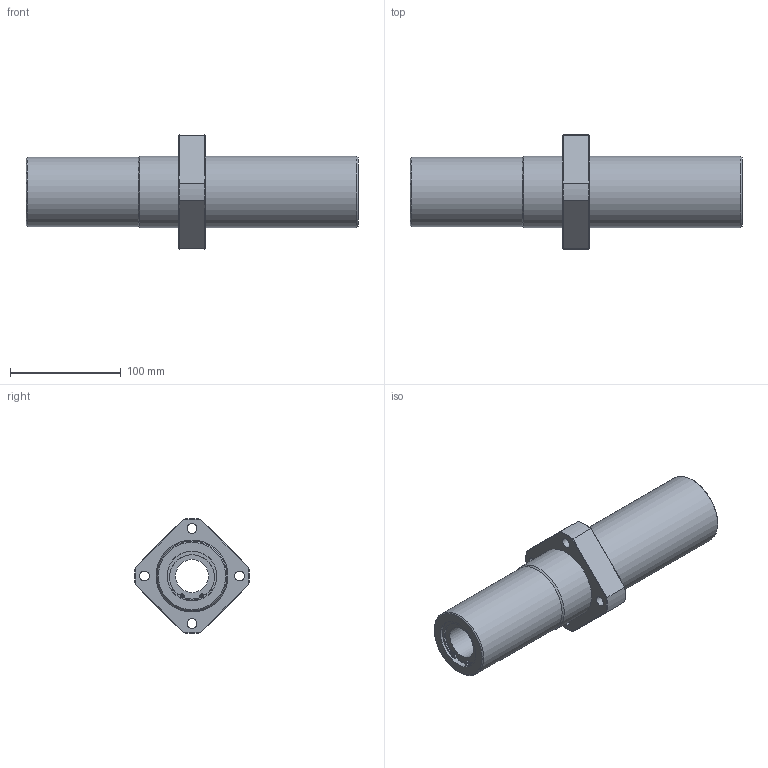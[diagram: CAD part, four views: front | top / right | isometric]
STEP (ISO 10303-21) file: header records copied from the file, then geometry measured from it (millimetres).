
FILE_DESCRIPTION((''),'2;1');
FILE_NAME('C:\Documents and Settings\土屋\My Documents\土屋移動用フォルダ\製品 (図面)\カタログ用3D\変換ファイル\OZAK_3D-CAD(STEP形式)\Part1.-Linear Bearings_ﾘﾆｱﾍﾞｱﾘﾝｸﾞ\09_Maintenance Free_ﾒｲﾝﾃﾅﾝｽﾌﾘｰ\L2017-09-22T14:16:23','2017-09-22T14:16:23',('y'),(''),'Autodesk Inventor 11','Autodesk Inventor 11','');
FILE_SCHEMA(('AUTOMOTIVE_DESIGN { 1 0 10303 214 1 1 1 1 }'));
Length unit declared in the file: millimetre
Products named in the file (1): LFWLC30MF
Bounding box: 300 x 103.86 x 103.86 mm (x, y, z)
Volume: 832798.7 mm3; surface area: 113915.5 mm2
Topology: 1 solids, 7 shells, 115 faces, 281 edges, 170 vertices
Faces by surface type: plane 36, bspline 34, cylinder 32, cone 11, torus 2
Full cylindrical faces by diameter (mm): 2.5 x2, 9 x4, 30 x2, 41.7 x2, 43 x2, 45 x8, 63 x1, 65 x2
Entity records: 3405 total; most frequent: CARTESIAN_POINT 896, DIRECTION 532, ORIENTED_EDGE 452, AXIS2_PLACEMENT_3D 240, EDGE_CURVE 226, EDGE_LOOP 186, CIRCLE 158, VERTEX_POINT 154
